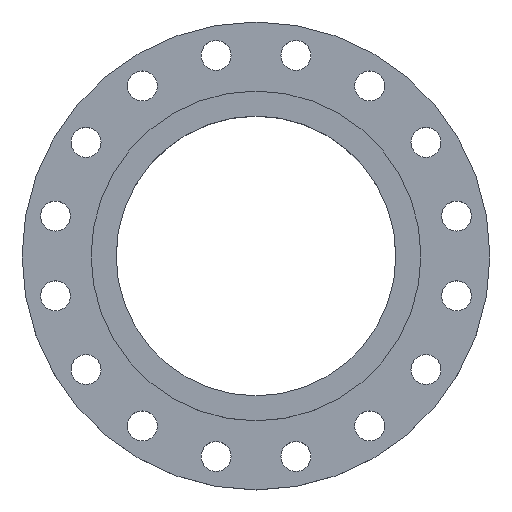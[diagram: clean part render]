
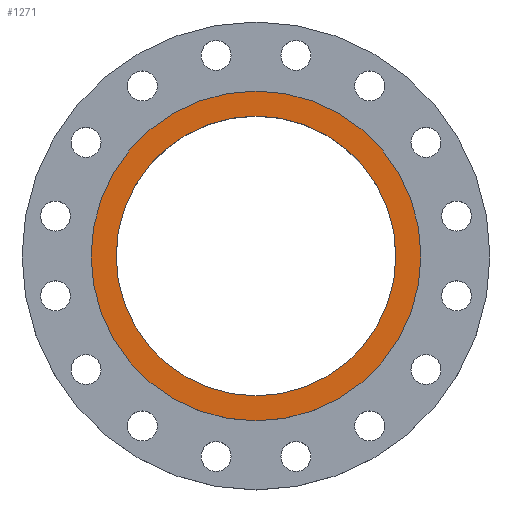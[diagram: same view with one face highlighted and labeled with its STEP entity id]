
A CAD part, top view. The second image highlights one B-rep face of the part: STEP entity #1271.
In plain terms, the highlighted planar face has unit normal (0, 0, 1).
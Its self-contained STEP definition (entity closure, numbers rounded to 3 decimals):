
#5 = CIRCLE ( 'NONE', #7, 153.95 ) ;
#7 = AXIS2_PLACEMENT_3D ( 'NONE', #322, #321, #320 ) ;
#37 = DIRECTION ( 'NONE',  ( 1., 0., 0. ) ) ;
#38 = DIRECTION ( 'NONE',  ( 0., 0., 1. ) ) ;
#39 = CARTESIAN_POINT ( 'NONE',  ( 0., 0., 0. ) ) ;
#40 = PLANE ( 'NONE',  #1109 ) ;
#41 = FACE_OUTER_BOUND ( 'NONE', #992, .T. ) ;
#42 = FACE_BOUND ( 'NONE', #1480, .T. ) ;
#124 = CARTESIAN_POINT ( 'NONE',  ( -153.95, 0., 0. ) ) ;
#175 = CIRCLE ( 'NONE', #811, 153.95 ) ;
#237 = AXIS2_PLACEMENT_3D ( 'NONE', #378, #377, #375 ) ;
#310 = CARTESIAN_POINT ( 'NONE',  ( 181.5, 0., 0. ) ) ;
#320 = DIRECTION ( 'NONE',  ( -1., 0., 0. ) ) ;
#321 = DIRECTION ( 'NONE',  ( 0., 0., -1. ) ) ;
#322 = CARTESIAN_POINT ( 'NONE',  ( 0., 0., 0. ) ) ;
#375 = DIRECTION ( 'NONE',  ( -1., 0., 0. ) ) ;
#377 = DIRECTION ( 'NONE',  ( 0., 0., -1. ) ) ;
#378 = CARTESIAN_POINT ( 'NONE',  ( 0., 0., 0. ) ) ;
#423 = DIRECTION ( 'NONE',  ( -1., 0., 0. ) ) ;
#424 = DIRECTION ( 'NONE',  ( 0., 0., -1. ) ) ;
#425 = CARTESIAN_POINT ( 'NONE',  ( 0., 0., 0. ) ) ;
#534 = AXIS2_PLACEMENT_3D ( 'NONE', #1160, #1158, #1157 ) ;
#538 = CIRCLE ( 'NONE', #534, 181.5 ) ;
#740 = EDGE_CURVE ( 'NONE', #1393, #1127, #175, .T. ) ;
#805 = EDGE_CURVE ( 'NONE', #907, #1375, #824, .T. ) ;
#811 = AXIS2_PLACEMENT_3D ( 'NONE', #425, #424, #423 ) ;
#824 = CIRCLE ( 'NONE', #237, 181.5 ) ;
#897 = EDGE_CURVE ( 'NONE', #1127, #1393, #5, .T. ) ;
#907 = VERTEX_POINT ( 'NONE', #310 ) ;
#949 = ORIENTED_EDGE ( 'NONE', *, *, #805, .F. ) ;
#951 = ORIENTED_EDGE ( 'NONE', *, *, #1585, .F. ) ;
#952 = ORIENTED_EDGE ( 'NONE', *, *, #740, .T. ) ;
#953 = ORIENTED_EDGE ( 'NONE', *, *, #897, .T. ) ;
#992 = EDGE_LOOP ( 'NONE', ( #951, #949 ) ) ;
#1109 = AXIS2_PLACEMENT_3D ( 'NONE', #39, #38, #37 ) ;
#1127 = VERTEX_POINT ( 'NONE', #124 ) ;
#1157 = DIRECTION ( 'NONE',  ( -1., 0., 0. ) ) ;
#1158 = DIRECTION ( 'NONE',  ( 0., 0., -1. ) ) ;
#1160 = CARTESIAN_POINT ( 'NONE',  ( 0., 0., 0. ) ) ;
#1271 = ADVANCED_FACE ( 'NONE', ( #42, #41 ), #40, .T. ) ;
#1375 = VERTEX_POINT ( 'NONE', #1710 ) ;
#1393 = VERTEX_POINT ( 'NONE', #1703 ) ;
#1480 = EDGE_LOOP ( 'NONE', ( #953, #952 ) ) ;
#1585 = EDGE_CURVE ( 'NONE', #1375, #907, #538, .T. ) ;
#1703 = CARTESIAN_POINT ( 'NONE',  ( 153.95, 0., 0. ) ) ;
#1710 = CARTESIAN_POINT ( 'NONE',  ( -181.5, 0., 0. ) ) ;
